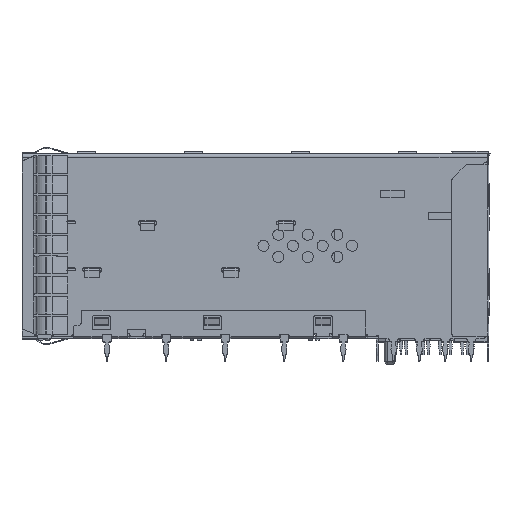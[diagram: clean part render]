
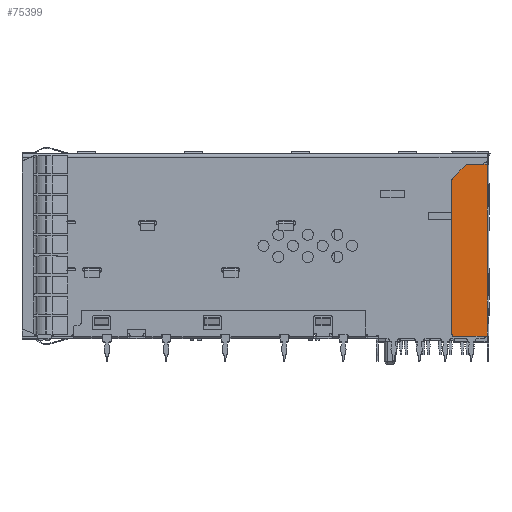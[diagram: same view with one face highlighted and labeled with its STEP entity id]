
A CAD part, top view. The second image highlights one B-rep face of the part: STEP entity #75399.
In plain terms, the highlighted planar face has unit normal (0, 0, 1).
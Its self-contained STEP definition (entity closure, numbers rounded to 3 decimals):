
#115 = DIRECTION ( 'NONE',  ( 0., 0., -1. ) ) ;
#263 = LINE ( 'NONE', #84325, #88896 ) ;
#633 = VERTEX_POINT ( 'NONE', #160401 ) ;
#1932 = DIRECTION ( 'NONE',  ( 0., -1., 0. ) ) ;
#2113 = ORIENTED_EDGE ( 'NONE', *, *, #122793, .T. ) ;
#2847 = VERTEX_POINT ( 'NONE', #144608 ) ;
#4440 = DIRECTION ( 'NONE',  ( -1., 0., 0. ) ) ;
#4613 = VECTOR ( 'NONE', #22217, 1000. ) ;
#5518 = DIRECTION ( 'NONE',  ( 0., 1., 0. ) ) ;
#7056 = AXIS2_PLACEMENT_3D ( 'NONE', #158586, #130268, #14178 ) ;
#8224 = CARTESIAN_POINT ( 'NONE',  ( 16.445, -1.75, 0. ) ) ;
#8661 = CARTESIAN_POINT ( 'NONE',  ( 11.945, 17.696, 0. ) ) ;
#9449 = VERTEX_POINT ( 'NONE', #114417 ) ;
#9798 = CARTESIAN_POINT ( 'NONE',  ( 11.695, 17.696, 0. ) ) ;
#13421 = EDGE_CURVE ( 'NONE', #126623, #146414, #34792, .T. ) ;
#13562 = VERTEX_POINT ( 'NONE', #160145 ) ;
#14178 = DIRECTION ( 'NONE',  ( 0., -1., 0. ) ) ;
#15110 = DIRECTION ( 'NONE',  ( 0., 1., 0. ) ) ;
#15277 = ORIENTED_EDGE ( 'NONE', *, *, #166373, .F. ) ;
#22217 = DIRECTION ( 'NONE',  ( 0., -1., 0. ) ) ;
#27059 = VECTOR ( 'NONE', #4440, 1000. ) ;
#27302 = CARTESIAN_POINT ( 'NONE',  ( 16.445, 14., 0. ) ) ;
#27572 = ORIENTED_EDGE ( 'NONE', *, *, #127610, .F. ) ;
#31206 = CIRCLE ( 'NONE', #7056, 0.25 ) ;
#31398 = LINE ( 'NONE', #89926, #35549 ) ;
#31745 = EDGE_CURVE ( 'NONE', #78821, #49481, #74570, .T. ) ;
#33465 = VECTOR ( 'NONE', #119534, 1000. ) ;
#34792 = LINE ( 'NONE', #134836, #82453 ) ;
#35549 = VECTOR ( 'NONE', #46485, 1000. ) ;
#35637 = VECTOR ( 'NONE', #51969, 1000. ) ;
#37672 = LINE ( 'NONE', #82936, #88391 ) ;
#44521 = ORIENTED_EDGE ( 'NONE', *, *, #59214, .F. ) ;
#45310 = CARTESIAN_POINT ( 'NONE',  ( 16.445, -3.5, 0. ) ) ;
#46485 = DIRECTION ( 'NONE',  ( 0., -1., 0. ) ) ;
#49481 = VERTEX_POINT ( 'NONE', #8224 ) ;
#50098 = ORIENTED_EDGE ( 'NONE', *, *, #114409, .F. ) ;
#51969 = DIRECTION ( 'NONE',  ( 0., 1., 0. ) ) ;
#52095 = VERTEX_POINT ( 'NONE', #169902 ) ;
#52931 = EDGE_LOOP ( 'NONE', ( #44521, #2113, #175715, #27572, #112455, #15277, #102754, #182775, #79574, #58939, #50098, #124086, #141296, #57195 ) ) ;
#56464 = DIRECTION ( 'NONE',  ( 0., 0., -1. ) ) ;
#57195 = ORIENTED_EDGE ( 'NONE', *, *, #13421, .T. ) ;
#58939 = ORIENTED_EDGE ( 'NONE', *, *, #31745, .T. ) ;
#59214 = EDGE_CURVE ( 'NONE', #176939, #146414, #263, .T. ) ;
#61397 = DIRECTION ( 'NONE',  ( -0.707, 0.707, 0. ) ) ;
#74570 = LINE ( 'NONE', #45310, #111848 ) ;
#75399 = ADVANCED_FACE ( 'NONE', ( #84784 ), #128195, .F. ) ;
#78821 = VERTEX_POINT ( 'NONE', #107047 ) ;
#79574 = ORIENTED_EDGE ( 'NONE', *, *, #87792, .T. ) ;
#80186 = CARTESIAN_POINT ( 'NONE',  ( 16.445, 5., 0. ) ) ;
#82453 = VECTOR ( 'NONE', #5518, 1000. ) ;
#82936 = CARTESIAN_POINT ( 'NONE',  ( 11.768, 17.873, 0. ) ) ;
#84325 = CARTESIAN_POINT ( 'NONE',  ( 16.445, 17., 0. ) ) ;
#84784 = FACE_OUTER_BOUND ( 'NONE', #52931, .T. ) ;
#87792 = EDGE_CURVE ( 'NONE', #2847, #78821, #165729, .T. ) ;
#88391 = VECTOR ( 'NONE', #184834, 1000. ) ;
#88896 = VECTOR ( 'NONE', #186252, 1000. ) ;
#89926 = CARTESIAN_POINT ( 'NONE',  ( 16.445, 5., 0. ) ) ;
#90285 = CARTESIAN_POINT ( 'NONE',  ( 11.945, -3.5, 0. ) ) ;
#90328 = CARTESIAN_POINT ( 'NONE',  ( 11.768, 17.873, 0. ) ) ;
#93623 = CARTESIAN_POINT ( 'NONE',  ( 13.799, 19.8, 0. ) ) ;
#102754 = ORIENTED_EDGE ( 'NONE', *, *, #113966, .T. ) ;
#103176 = VERTEX_POINT ( 'NONE', #152564 ) ;
#106390 = CARTESIAN_POINT ( 'NONE',  ( 16.445, 19.8, 0. ) ) ;
#107047 = CARTESIAN_POINT ( 'NONE',  ( 16.445, -3.5, 0. ) ) ;
#107322 = DIRECTION ( 'NONE',  ( 0., 1., 0. ) ) ;
#111848 = VECTOR ( 'NONE', #15110, 1000. ) ;
#112455 = ORIENTED_EDGE ( 'NONE', *, *, #167345, .F. ) ;
#113966 = EDGE_CURVE ( 'NONE', #168064, #9449, #139260, .T. ) ;
#114062 = DIRECTION ( 'NONE',  ( 1., -0.02, 0. ) ) ;
#114339 = LINE ( 'NONE', #156814, #143455 ) ;
#114409 = EDGE_CURVE ( 'NONE', #13562, #49481, #114339, .T. ) ;
#114417 = CARTESIAN_POINT ( 'NONE',  ( 11.695, -3.25, 0. ) ) ;
#117576 = VECTOR ( 'NONE', #107322, 1000. ) ;
#119534 = DIRECTION ( 'NONE',  ( 1., 0., 0. ) ) ;
#120922 = AXIS2_PLACEMENT_3D ( 'NONE', #8661, #169113, #139846 ) ;
#122628 = EDGE_CURVE ( 'NONE', #103176, #138902, #146083, .T. ) ;
#122793 = EDGE_CURVE ( 'NONE', #176939, #103176, #124291, .T. ) ;
#124086 = ORIENTED_EDGE ( 'NONE', *, *, #133266, .T. ) ;
#124291 = LINE ( 'NONE', #151661, #117576 ) ;
#124858 = AXIS2_PLACEMENT_3D ( 'NONE', #185757, #56464, #114062 ) ;
#126058 = CARTESIAN_POINT ( 'NONE',  ( 11.695, 17.696, 0. ) ) ;
#126623 = VERTEX_POINT ( 'NONE', #80186 ) ;
#127610 = EDGE_CURVE ( 'NONE', #633, #138902, #154775, .T. ) ;
#128195 = PLANE ( 'NONE',  #124858 ) ;
#129971 = CIRCLE ( 'NONE', #120922, 0.25 ) ;
#130268 = DIRECTION ( 'NONE',  ( 0., 0., -1. ) ) ;
#133266 = EDGE_CURVE ( 'NONE', #13562, #52095, #180355, .T. ) ;
#134819 = VERTEX_POINT ( 'NONE', #90328 ) ;
#134836 = CARTESIAN_POINT ( 'NONE',  ( 16.445, 5., 0. ) ) ;
#137287 = EDGE_CURVE ( 'NONE', #2847, #9449, #31206, .T. ) ;
#138902 = VERTEX_POINT ( 'NONE', #93623 ) ;
#139260 = LINE ( 'NONE', #126058, #4613 ) ;
#139846 = DIRECTION ( 'NONE',  ( -1., 0., 0. ) ) ;
#141296 = ORIENTED_EDGE ( 'NONE', *, *, #152111, .F. ) ;
#142243 = CARTESIAN_POINT ( 'NONE',  ( 16.445, 17., 0. ) ) ;
#143455 = VECTOR ( 'NONE', #1932, 1000. ) ;
#143619 = CARTESIAN_POINT ( 'NONE',  ( 13.799, 19.55, 0. ) ) ;
#144608 = CARTESIAN_POINT ( 'NONE',  ( 11.945, -3.5, 0. ) ) ;
#146083 = LINE ( 'NONE', #106390, #27059 ) ;
#146414 = VERTEX_POINT ( 'NONE', #27302 ) ;
#151661 = CARTESIAN_POINT ( 'NONE',  ( 16.445, 17., 0. ) ) ;
#152111 = EDGE_CURVE ( 'NONE', #126623, #52095, #31398, .T. ) ;
#152564 = CARTESIAN_POINT ( 'NONE',  ( 16.445, 19.8, 0. ) ) ;
#154775 = CIRCLE ( 'NONE', #157884, 0.25 ) ;
#156814 = CARTESIAN_POINT ( 'NONE',  ( 16.445, 0.25, 0. ) ) ;
#157884 = AXIS2_PLACEMENT_3D ( 'NONE', #143619, #115, #61397 ) ;
#158586 = CARTESIAN_POINT ( 'NONE',  ( 11.945, -3.25, 0. ) ) ;
#160145 = CARTESIAN_POINT ( 'NONE',  ( 16.445, 0.25, 0. ) ) ;
#160401 = CARTESIAN_POINT ( 'NONE',  ( 13.622, 19.727, 0. ) ) ;
#165729 = LINE ( 'NONE', #90285, #33465 ) ;
#166373 = EDGE_CURVE ( 'NONE', #168064, #134819, #129971, .T. ) ;
#167345 = EDGE_CURVE ( 'NONE', #134819, #633, #37672, .T. ) ;
#168064 = VERTEX_POINT ( 'NONE', #9798 ) ;
#169113 = DIRECTION ( 'NONE',  ( 0., 0., -1. ) ) ;
#169902 = CARTESIAN_POINT ( 'NONE',  ( 16.445, 2., 0. ) ) ;
#175715 = ORIENTED_EDGE ( 'NONE', *, *, #122628, .T. ) ;
#176939 = VERTEX_POINT ( 'NONE', #142243 ) ;
#180355 = LINE ( 'NONE', #181276, #35637 ) ;
#181276 = CARTESIAN_POINT ( 'NONE',  ( 16.445, 0.25, 0. ) ) ;
#182775 = ORIENTED_EDGE ( 'NONE', *, *, #137287, .F. ) ;
#184834 = DIRECTION ( 'NONE',  ( 0.707, 0.707, 0. ) ) ;
#185757 = CARTESIAN_POINT ( 'NONE',  ( 14.07, 8.15, 0. ) ) ;
#186252 = DIRECTION ( 'NONE',  ( 0., -1., 0. ) ) ;
